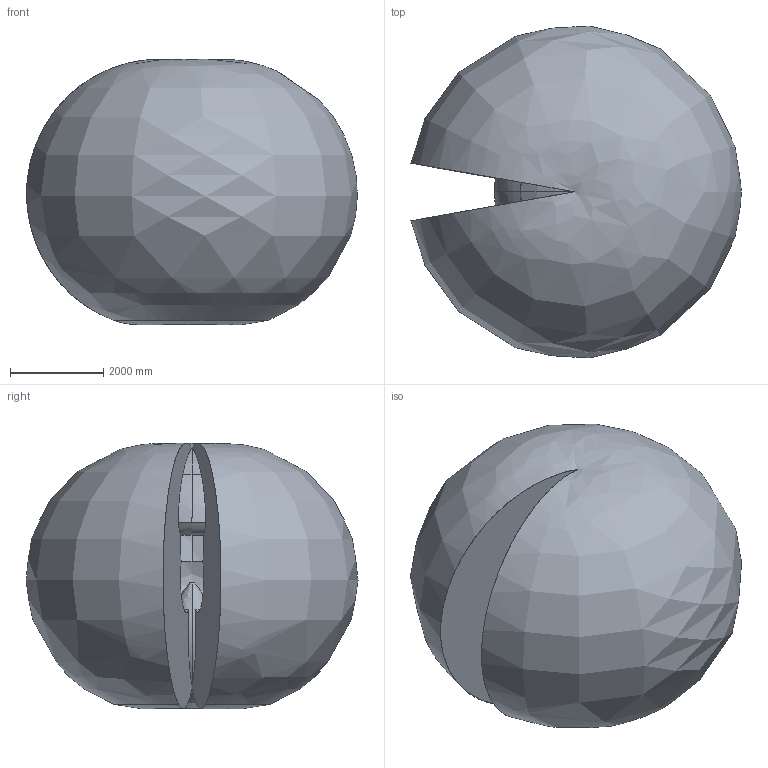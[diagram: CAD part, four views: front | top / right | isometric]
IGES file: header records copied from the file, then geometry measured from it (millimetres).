
Start section: SolidWorks IGES file using analytic representation for surfaces
Global section: file name: C:\Data\SAP_DOC\IRB6740_lightweight\6750S\IRB 6750S ASM\IRB6750S-LID-SW_220kg-360_OC_01_SW_J\IRB6750S-LID-SW_220kg-360_OC_01_IGES_J\IRB6750S-LID_220kg-360_OC_00_Working-envelope.igs; native system: SolidWorks 2024; preprocessor: SolidWorks 2024; author: SEJAOLS6; date: 260513.074516; units: millimetre
Bounding box: 7095.07 x 7121.88 x 5692.79 mm (x, y, z)
Surface area: 193656067.8 mm2 (no closed solid volume)
Topology: 0 solids, 0 shells, 23 faces, 548 edges, 536 vertices
Faces by surface type: bspline 23
